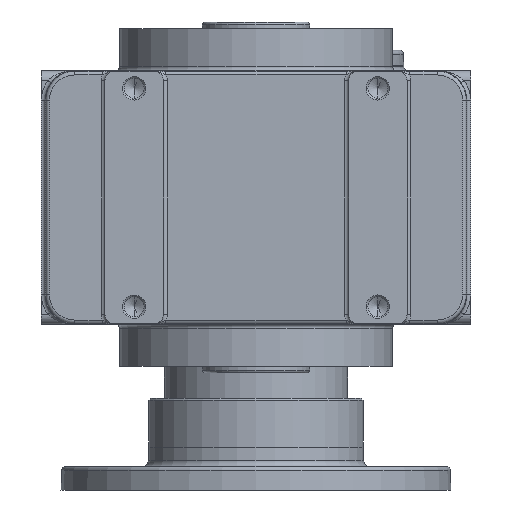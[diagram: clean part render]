
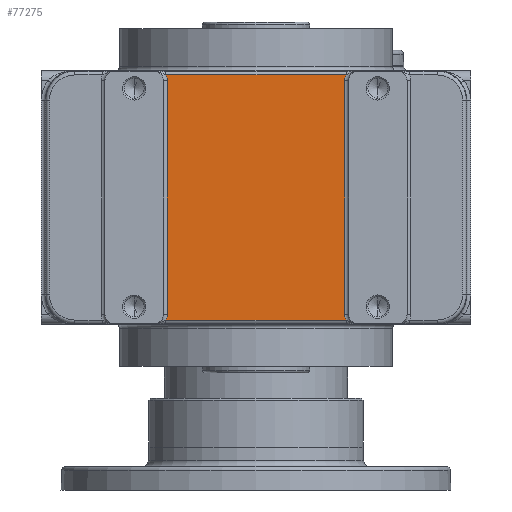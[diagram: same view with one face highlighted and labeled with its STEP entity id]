
A CAD part, front view. The second image highlights one B-rep face of the part: STEP entity #77275.
In plain terms, the highlighted planar face has unit normal (0, -1, 0).
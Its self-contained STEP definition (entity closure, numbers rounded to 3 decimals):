
#57697 = DIRECTION ( 'NONE',  ( 0., 0., -1. ) ) ;
#57699 = VECTOR ( 'NONE', #57697, 1000. ) ;
#57700 = CARTESIAN_POINT ( 'NONE',  ( -45.517, -98., 115. ) ) ;
#57701 = LINE ( 'NONE', #57700, #57699 ) ;
#57754 = CARTESIAN_POINT ( 'NONE',  ( 46.203, -98., 127.86 ) ) ;
#57758 = CARTESIAN_POINT ( 'NONE',  ( 45.517, -98., 124.843 ) ) ;
#57760 = DIRECTION ( 'NONE',  ( 0., 0., 1. ) ) ;
#57762 = VECTOR ( 'NONE', #57760, 1000. ) ;
#57764 = CARTESIAN_POINT ( 'NONE',  ( 45.517, -98., 115. ) ) ;
#57766 = LINE ( 'NONE', #57764, #57762 ) ;
#57769 = CARTESIAN_POINT ( 'NONE',  ( 45.517, -98., 5.157 ) ) ;
#57771 = DIRECTION ( 'NONE',  ( 0., 0., -1. ) ) ;
#57774 = DIRECTION ( 'NONE',  ( 0., 1., 0. ) ) ;
#57775 = CARTESIAN_POINT ( 'NONE',  ( 52.5, -98., 5.157 ) ) ;
#57776 = AXIS2_PLACEMENT_3D ( 'NONE', #57775, #57774, #57771 ) ;
#57777 = CIRCLE ( 'NONE', #57776, 6.983 ) ;
#57782 = CARTESIAN_POINT ( 'NONE',  ( 46.203, -98., 2.14 ) ) ;
#57785 = DIRECTION ( 'NONE',  ( 1., 0., 0. ) ) ;
#57786 = VECTOR ( 'NONE', #57785, 1000. ) ;
#57787 = CARTESIAN_POINT ( 'NONE',  ( 52.5, -98., 2.14 ) ) ;
#57788 = LINE ( 'NONE', #57787, #57786 ) ;
#57792 = CARTESIAN_POINT ( 'NONE',  ( -46.203, -98., 2.14 ) ) ;
#57794 = DIRECTION ( 'NONE',  ( 0., 0., -1. ) ) ;
#57796 = DIRECTION ( 'NONE',  ( 0., 1., 0. ) ) ;
#57798 = CARTESIAN_POINT ( 'NONE',  ( -52.5, -98., 5.157 ) ) ;
#57799 = AXIS2_PLACEMENT_3D ( 'NONE', #57798, #57796, #57794 ) ;
#57800 = CIRCLE ( 'NONE', #57799, 6.983 ) ;
#57868 = CARTESIAN_POINT ( 'NONE',  ( -46.203, -98., 127.86 ) ) ;
#57871 = DIRECTION ( 'NONE',  ( 0., 0., -1. ) ) ;
#57874 = DIRECTION ( 'NONE',  ( 0., 1., 0. ) ) ;
#57875 = CARTESIAN_POINT ( 'NONE',  ( 52.5, -98., 124.843 ) ) ;
#57876 = AXIS2_PLACEMENT_3D ( 'NONE', #57875, #57874, #57871 ) ;
#57877 = CIRCLE ( 'NONE', #57876, 6.983 ) ;
#57919 = CARTESIAN_POINT ( 'NONE',  ( -45.517, -98., 5.157 ) ) ;
#57920 = DIRECTION ( 'NONE',  ( 0., 0., -1. ) ) ;
#57921 = DIRECTION ( 'NONE',  ( 0., -1., 0. ) ) ;
#57922 = CARTESIAN_POINT ( 'NONE',  ( -93., -98., 115. ) ) ;
#57923 = AXIS2_PLACEMENT_3D ( 'NONE', #57922, #57921, #57920 ) ;
#57924 = PLANE ( 'NONE',  #57923 ) ;
#57929 = FACE_OUTER_BOUND ( 'NONE', #77276, .T. ) ;
#58010 = DIRECTION ( 'NONE',  ( -1., 0., 0. ) ) ;
#58011 = VECTOR ( 'NONE', #58010, 1000. ) ;
#58012 = CARTESIAN_POINT ( 'NONE',  ( -52.5, -98., 127.86 ) ) ;
#58013 = LINE ( 'NONE', #58012, #58011 ) ;
#58129 = CARTESIAN_POINT ( 'NONE',  ( -45.517, -98., 124.843 ) ) ;
#58130 = DIRECTION ( 'NONE',  ( 0., 0., -1. ) ) ;
#58131 = DIRECTION ( 'NONE',  ( 0., 1., 0. ) ) ;
#58132 = CARTESIAN_POINT ( 'NONE',  ( -52.5, -98., 124.843 ) ) ;
#58134 = AXIS2_PLACEMENT_3D ( 'NONE', #58132, #58131, #58130 ) ;
#58136 = CIRCLE ( 'NONE', #58134, 6.983 ) ;
#77241 = EDGE_CURVE ( 'NONE', #77323, #77278, #57701, .T. ) ;
#77250 = EDGE_CURVE ( 'NONE', #77278, #77251, #57800, .T. ) ;
#77251 = VERTEX_POINT ( 'NONE', #57792 ) ;
#77252 = ORIENTED_EDGE ( 'NONE', *, *, #77253, .T. ) ;
#77253 = EDGE_CURVE ( 'NONE', #77251, #77254, #57788, .T. ) ;
#77254 = VERTEX_POINT ( 'NONE', #57782 ) ;
#77255 = ORIENTED_EDGE ( 'NONE', *, *, #77256, .T. ) ;
#77256 = EDGE_CURVE ( 'NONE', #77254, #77257, #57777, .T. ) ;
#77257 = VERTEX_POINT ( 'NONE', #57769 ) ;
#77258 = ORIENTED_EDGE ( 'NONE', *, *, #77259, .T. ) ;
#77259 = EDGE_CURVE ( 'NONE', #77257, #77260, #57766, .T. ) ;
#77260 = VERTEX_POINT ( 'NONE', #57758 ) ;
#77261 = ORIENTED_EDGE ( 'NONE', *, *, #77262, .T. ) ;
#77262 = EDGE_CURVE ( 'NONE', #77260, #77263, #57877, .T. ) ;
#77263 = VERTEX_POINT ( 'NONE', #57754 ) ;
#77264 = VERTEX_POINT ( 'NONE', #57868 ) ;
#77275 = ADVANCED_FACE ( 'NONE', ( #57929 ), #57924, .T. ) ;
#77276 = EDGE_LOOP ( 'NONE', ( #77277, #77252, #77255, #77258, #77261, #77319, #77321, #77324 ) ) ;
#77277 = ORIENTED_EDGE ( 'NONE', *, *, #77250, .T. ) ;
#77278 = VERTEX_POINT ( 'NONE', #57919 ) ;
#77319 = ORIENTED_EDGE ( 'NONE', *, *, #77320, .T. ) ;
#77320 = EDGE_CURVE ( 'NONE', #77263, #77264, #58013, .T. ) ;
#77321 = ORIENTED_EDGE ( 'NONE', *, *, #77322, .T. ) ;
#77322 = EDGE_CURVE ( 'NONE', #77264, #77323, #58136, .T. ) ;
#77323 = VERTEX_POINT ( 'NONE', #58129 ) ;
#77324 = ORIENTED_EDGE ( 'NONE', *, *, #77241, .T. ) ;
